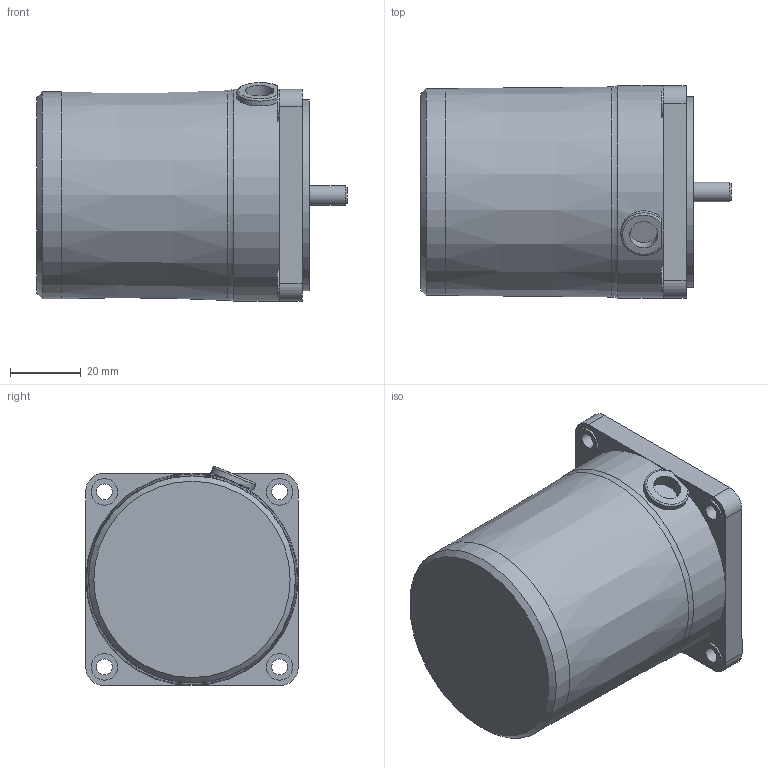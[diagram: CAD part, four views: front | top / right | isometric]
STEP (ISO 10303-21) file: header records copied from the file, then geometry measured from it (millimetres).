
FILE_DESCRIPTION((''),'2;1');
FILE_NAME('D:\STP파일\6W MOTOR\S6I06G.stp','2013-05-20T15:45:11',('leebh'),(''),'Autodesk Inventor 2011','Autodesk Inventor 2011','');
FILE_SCHEMA(('AUTOMOTIVE_DESIGN { 1 0 10303 214 1 1 1 1 }'));
Length unit declared in the file: millimetre
Products named in the file (1): 부품1
Bounding box: 87.7 x 60 x 61.91 mm (x, y, z)
Volume: 209605.2 mm3; surface area: 23430.2 mm2
Topology: 1 solids, 2 shells, 76 faces, 188 edges, 122 vertices
Faces by surface type: plane 42, cylinder 29, cone 3, torus 2
Full cylindrical faces by diameter (mm): 4.5 x4, 5.57 x1, 7.5 x4, 8 x1, 10.1 x1, 25 x1, 54 x1, 58.5 x1, 60 x1
Entity records: 2261 total; most frequent: CARTESIAN_POINT 424, DIRECTION 390, ORIENTED_EDGE 336, EDGE_CURVE 168, AXIS2_PLACEMENT_3D 150, VERTEX_POINT 121, EDGE_LOOP 115, VECTOR 90
